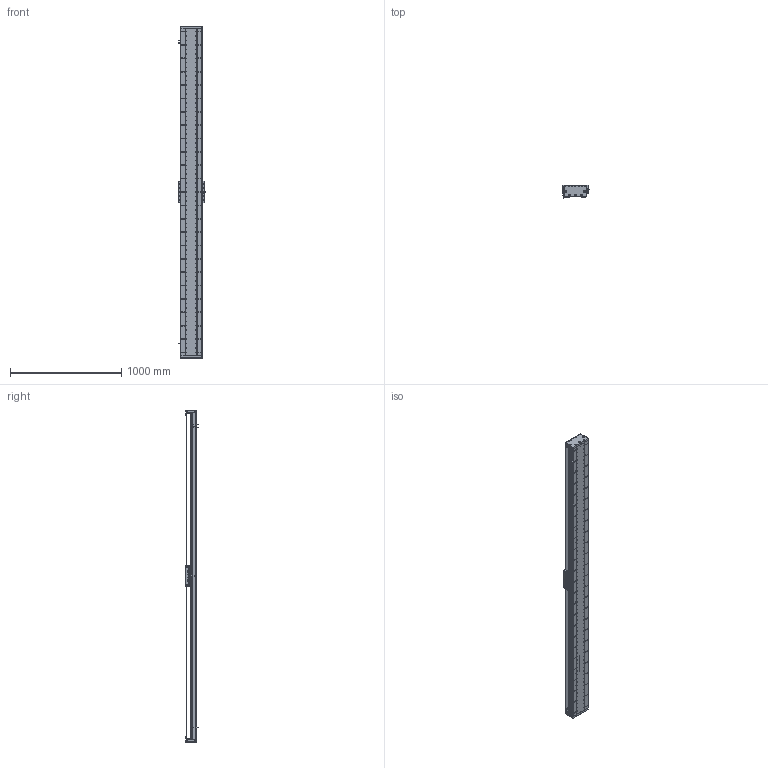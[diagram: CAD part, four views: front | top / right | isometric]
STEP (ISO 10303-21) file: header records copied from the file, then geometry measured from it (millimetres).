
FILE_DESCRIPTION (( 'STEP AP203' ), '1' );
FILE_NAME ('DA-C195-C2-T2700-C010-0.2 眻盄萇儂.STEP', '2025-08-15T01:14:40', ( '' ), ( '' ), 'SwSTEP 2.0', 'SolidWorks 2019', '' );
FILE_SCHEMA (( 'CONFIG_CONTROL_DESIGN' ));
Length unit declared in the file: millimetre
Products named in the file (15): IU-CU195-L 菁釱絳寢; DA195詩湍郪璃; DA95-HXJ-00 遣喳砎蝶; DA195詩湍裔啣; MS200 棠掑喜S315-T1740; DA195詩湍菜輸; DA-C195-C2-T2700-C010-0.2 眻盄萇儂; 葩璃 DA95-GT-T-00; LMT黍杅芛; DA195詩湍嶺輸; CU195-C2賑輸-俋楷; DA165-GYP-00 光电感应片(默认); DA-C195-GD-DB-H-00 傷啣; PM-T45ㄗ侂狟ㄘ; IU-CU195-L-00 菁釱(L2940)
Assembly tree (29 placements, depth 3):
  DA-C195-C2-T2700-C010-0.2 眻盄萇儂
    DA195詩湍郪璃
      DA195詩湍菜輸  x2
      DA195詩湍裔啣
      DA195詩湍嶺輸  x2
      DA95-HXJ-00 遣喳砎蝶  x8
      DA-C195-GD-DB-H-00 傷啣  x2
    IU-CU195-L 菁釱絳寢
      IU-CU195-L-00 菁釱(L2940)
      葩璃 DA95-GT-T-00  x4
    LMT黍杅芛
    MS200 棠掑喜S315-T1740
    PM-T45ㄗ侂狟ㄘ  x3
    DA165-GYP-00 光电感应片(默认)
    CU195-C2賑輸-俋楷
Bounding box: 248 x 115.45 x 2980 mm (x, y, z)
Volume: 16858314.5 mm3; surface area: 5011190.7 mm2
Topology: 66 solids, 130 shells, 4544 faces, 12859 edges, 8119 vertices
Faces by surface type: cylinder 2519, plane 1407, cone 530, torus 52, sphere 36
Entity records: 148715 total; most frequent: CARTESIAN_POINT 41406, ORIENTED_EDGE 22602, DIRECTION 21496, EDGE_CURVE 11301, AXIS2_PLACEMENT_3D 8085, VERTEX_POINT 7321, LINE 5326, VECTOR 5326
